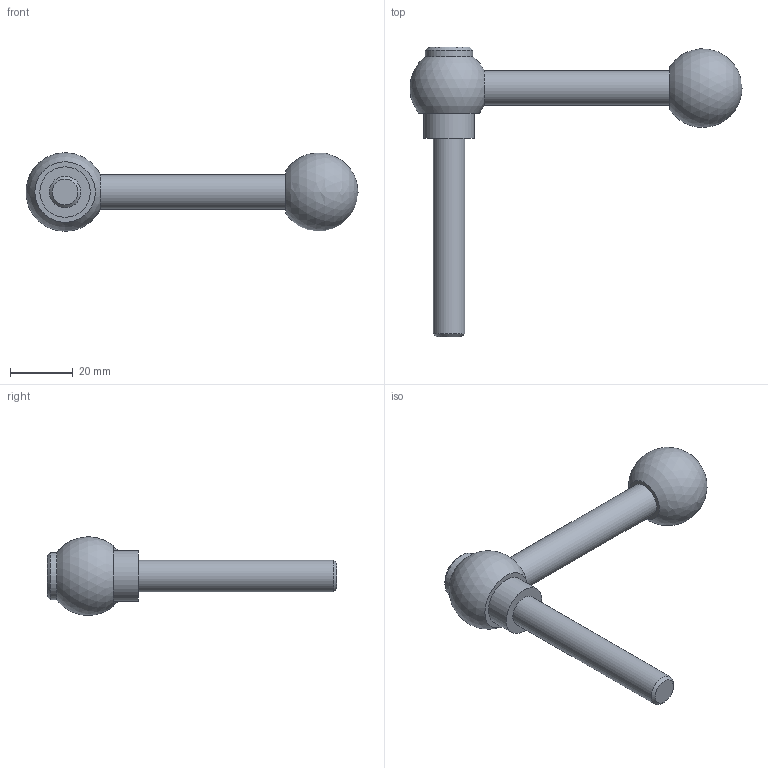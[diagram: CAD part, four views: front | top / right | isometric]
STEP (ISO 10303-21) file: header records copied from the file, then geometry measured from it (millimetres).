
FILE_DESCRIPTION( ( 'STEP AP203' ), '1' );
FILE_NAME( 'C:/Temp/Ganter_Step_05_03_2020/data/2_1/gn_6337_3/gn_6337_3_ms/gn_6337_3_ms_m/Adjustable clamping lever with bolt GN 6337.3-25-M10-63-M.stp', '2020-03-05T11:41:15', ( 'License CC BY-ND 4.0' ), ( 'CADENAS' ), ' ', 'PARTsolutions', ' ' );
FILE_SCHEMA( ( 'CONFIG_CONTROL_DESIGN' ) );
Length unit declared in the file: millimetre
Products named in the file (1): _Adjustable clamping lever with bolt GN 6337.3-25-M10-63-M
Bounding box: 105.41 x 92 x 24.97 mm (x, y, z)
Volume: 27860.5 mm3; surface area: 8142.9 mm2
Topology: 1 solids, 1 shells, 13 faces, 23 edges, 15 vertices
Faces by surface type: plane 5, cylinder 4, cone 2, sphere 2
Full cylindrical faces by diameter (mm): 10 x1, 11 x1, 15 x1, 16 x1
Entity records: 302 total; most frequent: DIRECTION 52, CARTESIAN_POINT 39, AXIS2_PLACEMENT_3D 26, EDGE_LOOP 24, ORIENTED_EDGE 24, FACE_OUTER_BOUND 18, ADVANCED_FACE 13, VERTEX_POINT 13
